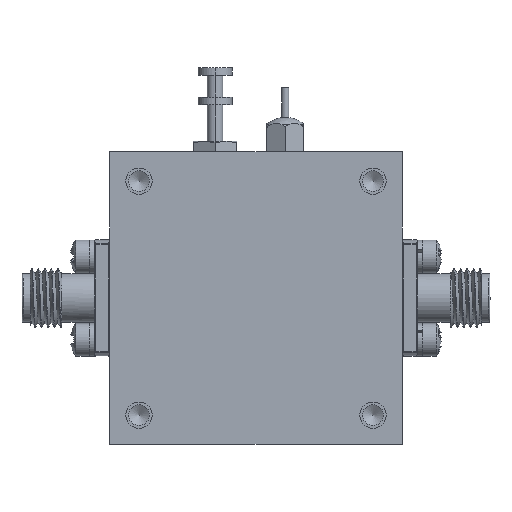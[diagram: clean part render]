
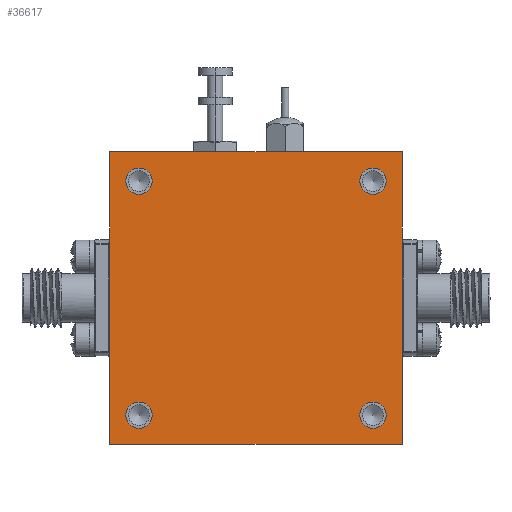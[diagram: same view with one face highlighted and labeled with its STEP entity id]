
A CAD part, front view. The second image highlights one B-rep face of the part: STEP entity #36617.
In plain terms, the highlighted planar face has unit normal (0, -1, 0).
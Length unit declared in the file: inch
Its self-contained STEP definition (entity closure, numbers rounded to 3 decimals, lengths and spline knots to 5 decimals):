
#413 = FACE_BOUND ( 'NONE', #23584, .T. ) ;
#670 = CARTESIAN_POINT ( 'NONE',  ( -0.625, -0.563, -0.625 ) ) ;
#1230 = AXIS2_PLACEMENT_3D ( 'NONE', #13504, #31812, #42146 ) ;
#2807 = CIRCLE ( 'NONE', #1230, 0.056 ) ;
#3344 = CARTESIAN_POINT ( 'NONE',  ( 0.625, -0.563, -0.625 ) ) ;
#3423 = DIRECTION ( 'NONE',  ( 1., 0., 0. ) ) ;
#3592 = DIRECTION ( 'NONE',  ( 0., 0., 1. ) ) ;
#4368 = CARTESIAN_POINT ( 'NONE',  ( -0.625, -0.563, 0.625 ) ) ;
#4850 = DIRECTION ( 'NONE',  ( 0., 0., -1. ) ) ;
#6042 = VECTOR ( 'NONE', #15323, 39.37008 ) ;
#6823 = CARTESIAN_POINT ( 'NONE',  ( 0.625, -0.563, 0.625 ) ) ;
#8877 = DIRECTION ( 'NONE',  ( 0., -1., 0. ) ) ;
#9442 = CARTESIAN_POINT ( 'NONE',  ( -0.5, -0.563, 0.444 ) ) ;
#9627 = ORIENTED_EDGE ( 'NONE', *, *, #24461, .F. ) ;
#9929 = ORIENTED_EDGE ( 'NONE', *, *, #17781, .F. ) ;
#10640 = EDGE_CURVE ( 'NONE', #43066, #16763, #21434, .T. ) ;
#10797 = ORIENTED_EDGE ( 'NONE', *, *, #40810, .T. ) ;
#11502 = AXIS2_PLACEMENT_3D ( 'NONE', #25699, #22526, #30025 ) ;
#11908 = CARTESIAN_POINT ( 'NONE',  ( -0.625, -0.563, -0.625 ) ) ;
#12321 = EDGE_LOOP ( 'NONE', ( #10797, #19996, #9627, #23873 ) ) ;
#12618 = AXIS2_PLACEMENT_3D ( 'NONE', #37798, #44838, #4850 ) ;
#13504 = CARTESIAN_POINT ( 'NONE',  ( -0.5, -0.563, -0.5 ) ) ;
#13751 = VERTEX_POINT ( 'NONE', #39240 ) ;
#15323 = DIRECTION ( 'NONE',  ( 1., 0., 0. ) ) ;
#15816 = AXIS2_PLACEMENT_3D ( 'NONE', #31189, #20072, #45839 ) ;
#15847 = CIRCLE ( 'NONE', #15816, 0.056 ) ;
#16763 = VERTEX_POINT ( 'NONE', #4368 ) ;
#17781 = EDGE_CURVE ( 'NONE', #25114, #25114, #2807, .T. ) ;
#17806 = DIRECTION ( 'NONE',  ( 0., 0., 1. ) ) ;
#18619 = CARTESIAN_POINT ( 'NONE',  ( 0.625, -0.563, -0.625 ) ) ;
#19267 = EDGE_CURVE ( 'NONE', #32486, #31099, #43808, .T. ) ;
#19843 = EDGE_LOOP ( 'NONE', ( #9929 ) ) ;
#19899 = CARTESIAN_POINT ( 'NONE',  ( 0.5, -0.563, -0.5 ) ) ;
#19996 = ORIENTED_EDGE ( 'NONE', *, *, #19267, .T. ) ;
#20072 = DIRECTION ( 'NONE',  ( 0., -1., 0. ) ) ;
#20680 = AXIS2_PLACEMENT_3D ( 'NONE', #19899, #8877, #46406 ) ;
#20713 = CARTESIAN_POINT ( 'NONE',  ( 0.5, -0.563, 0.444 ) ) ;
#21075 = CIRCLE ( 'NONE', #12618, 0.056 ) ;
#21432 = CIRCLE ( 'NONE', #20680, 0.056 ) ;
#21434 = LINE ( 'NONE', #32315, #26797 ) ;
#22425 = CARTESIAN_POINT ( 'NONE',  ( -0.5, -0.563, -0.556 ) ) ;
#22526 = DIRECTION ( 'NONE',  ( 0., -1., 0. ) ) ;
#23584 = EDGE_LOOP ( 'NONE', ( #43353 ) ) ;
#23873 = ORIENTED_EDGE ( 'NONE', *, *, #10640, .F. ) ;
#24461 = EDGE_CURVE ( 'NONE', #16763, #31099, #32584, .T. ) ;
#25114 = VERTEX_POINT ( 'NONE', #22425 ) ;
#25338 = CARTESIAN_POINT ( 'NONE',  ( -0.625, -0.563, 0.625 ) ) ;
#25699 = CARTESIAN_POINT ( 'NONE',  ( 0., -0.563, 0. ) ) ;
#26463 = LINE ( 'NONE', #670, #6042 ) ;
#26797 = VECTOR ( 'NONE', #17806, 39.37008 ) ;
#28403 = ORIENTED_EDGE ( 'NONE', *, *, #41748, .F. ) ;
#29560 = FACE_OUTER_BOUND ( 'NONE', #12321, .T. ) ;
#30025 = DIRECTION ( 'NONE',  ( 0., 0., -1. ) ) ;
#31078 = EDGE_LOOP ( 'NONE', ( #28403 ) ) ;
#31099 = VERTEX_POINT ( 'NONE', #6823 ) ;
#31189 = CARTESIAN_POINT ( 'NONE',  ( -0.5, -0.563, 0.5 ) ) ;
#31812 = DIRECTION ( 'NONE',  ( 0., -1., 0. ) ) ;
#32315 = CARTESIAN_POINT ( 'NONE',  ( -0.625, -0.563, -0.625 ) ) ;
#32486 = VERTEX_POINT ( 'NONE', #18619 ) ;
#32584 = LINE ( 'NONE', #25338, #36978 ) ;
#33169 = PLANE ( 'NONE',  #11502 ) ;
#33415 = FACE_BOUND ( 'NONE', #19843, .T. ) ;
#35677 = VERTEX_POINT ( 'NONE', #20713 ) ;
#36617 = ADVANCED_FACE ( 'NONE', ( #37215, #33415, #413, #40846, #29560 ), #33169, .T. ) ;
#36978 = VECTOR ( 'NONE', #3423, 39.37008 ) ;
#37215 = FACE_BOUND ( 'NONE', #31078, .T. ) ;
#37308 = EDGE_LOOP ( 'NONE', ( #44013 ) ) ;
#37798 = CARTESIAN_POINT ( 'NONE',  ( 0.5, -0.563, 0.5 ) ) ;
#38611 = EDGE_CURVE ( 'NONE', #46726, #46726, #15847, .T. ) ;
#39240 = CARTESIAN_POINT ( 'NONE',  ( 0.5, -0.563, -0.556 ) ) ;
#40810 = EDGE_CURVE ( 'NONE', #43066, #32486, #26463, .T. ) ;
#40846 = FACE_BOUND ( 'NONE', #37308, .T. ) ;
#41748 = EDGE_CURVE ( 'NONE', #13751, #13751, #21432, .T. ) ;
#42146 = DIRECTION ( 'NONE',  ( 0., 0., -1. ) ) ;
#43066 = VERTEX_POINT ( 'NONE', #11908 ) ;
#43353 = ORIENTED_EDGE ( 'NONE', *, *, #38611, .F. ) ;
#43664 = VECTOR ( 'NONE', #3592, 39.37008 ) ;
#43808 = LINE ( 'NONE', #3344, #43664 ) ;
#44013 = ORIENTED_EDGE ( 'NONE', *, *, #47102, .F. ) ;
#44838 = DIRECTION ( 'NONE',  ( 0., -1., 0. ) ) ;
#45839 = DIRECTION ( 'NONE',  ( 0., 0., -1. ) ) ;
#46406 = DIRECTION ( 'NONE',  ( 0., 0., -1. ) ) ;
#46726 = VERTEX_POINT ( 'NONE', #9442 ) ;
#47102 = EDGE_CURVE ( 'NONE', #35677, #35677, #21075, .T. ) ;
